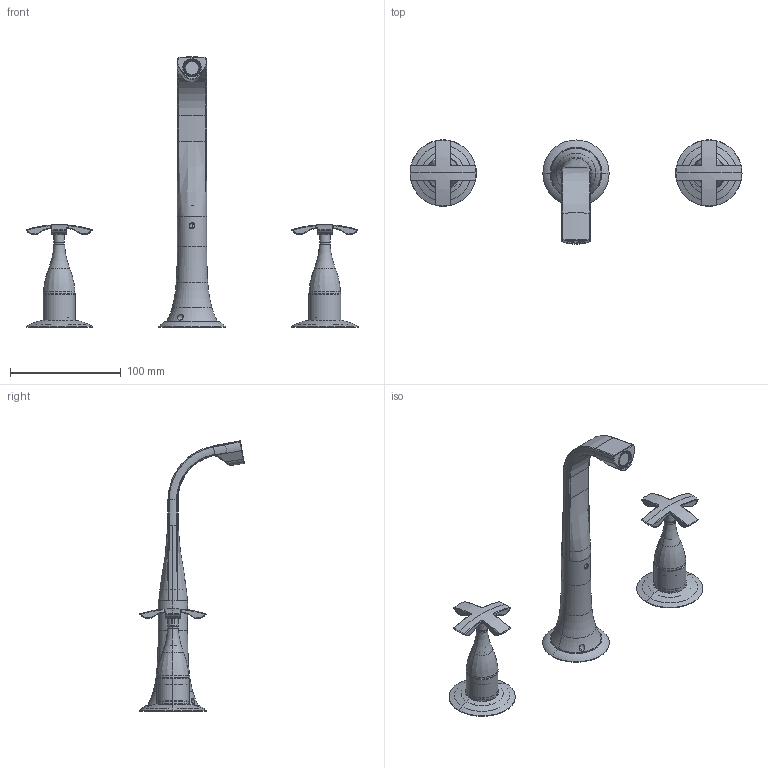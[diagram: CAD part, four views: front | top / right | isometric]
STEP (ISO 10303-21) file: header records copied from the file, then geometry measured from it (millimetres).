
FILE_DESCRIPTION((''),'2;1');
FILE_NAME('62034_SW0001','2026-02-06T08:35:31',('volponeff'),(''),'CREO PARAMETRIC BY PTC INC, 2022014','CREO PARAMETRIC BY PTC INC, 2022014','');
FILE_SCHEMA(('CONFIG_CONTROL_DESIGN'));
Length unit declared in the file: millimetre
Products named in the file (1): 62034_SW0001
Bounding box: 300 x 94.5 x 244.1 mm (x, y, z)
Volume: 149840.1 mm3; surface area: 107597.1 mm2
Topology: 9 solids, 9 shells, 1153 faces, 2795 edges, 1701 vertices
Faces by surface type: plane 385, cylinder 380, cone 178, torus 103, bspline 87, sphere 20
Entity records: 40280 total; most frequent: CARTESIAN_POINT 13642, DIRECTION 5688, ORIENTED_EDGE 5562, EDGE_CURVE 2781, AXIS2_PLACEMENT_3D 2312, VERTEX_POINT 1701, CIRCLE 1246, EDGE_LOOP 1228
